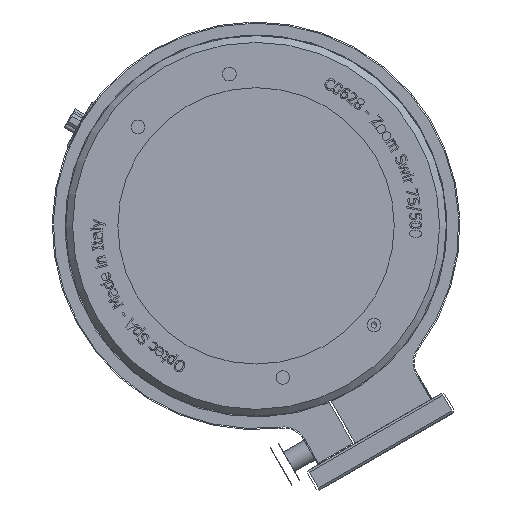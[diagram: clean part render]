
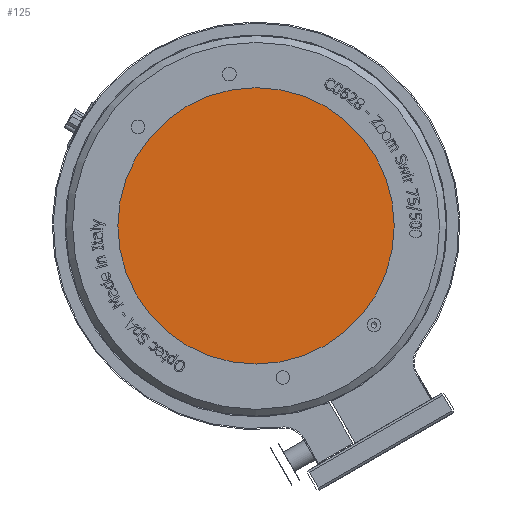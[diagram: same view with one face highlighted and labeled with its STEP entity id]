
A CAD part, left-side view. The second image highlights one B-rep face of the part: STEP entity #125.
In plain terms, the highlighted planar face has unit normal (-1, 0, 0).
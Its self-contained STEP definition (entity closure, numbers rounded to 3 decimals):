
#109=CARTESIAN_POINT('',(-139.232,-57.01,-52.108));
#110=DIRECTION('',(-1.0,0.0,0.0));
#111=DIRECTION('',(0.0,0.866,-0.5));
#112=AXIS2_PLACEMENT_3D('',#109,#110,#111);
#113=PLANE('',#112);
#114=CARTESIAN_POINT('',(-139.232,-57.425,-52.828));
#115=VERTEX_POINT('',#114);
#116=CARTESIAN_POINT('',(-139.232,-26.925,0.));
#117=DIRECTION('',(1.0,0.,0.));
#118=DIRECTION('',(0.,-0.5,-0.866));
#119=AXIS2_PLACEMENT_3D('',#116,#117,#118);
#120=CIRCLE('',#119,61.);
#121=EDGE_CURVE('',#115,#115,#120,.T.);
#122=ORIENTED_EDGE('',*,*,#121,.F.);
#123=EDGE_LOOP('',(#122));
#124=FACE_OUTER_BOUND('',#123,.T.);
#125=ADVANCED_FACE('',(#124),#113,.T.);
